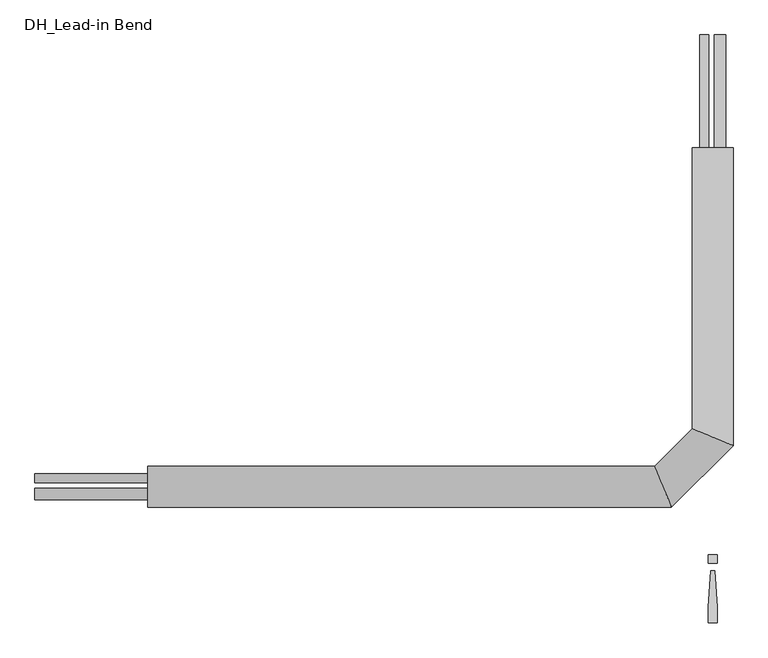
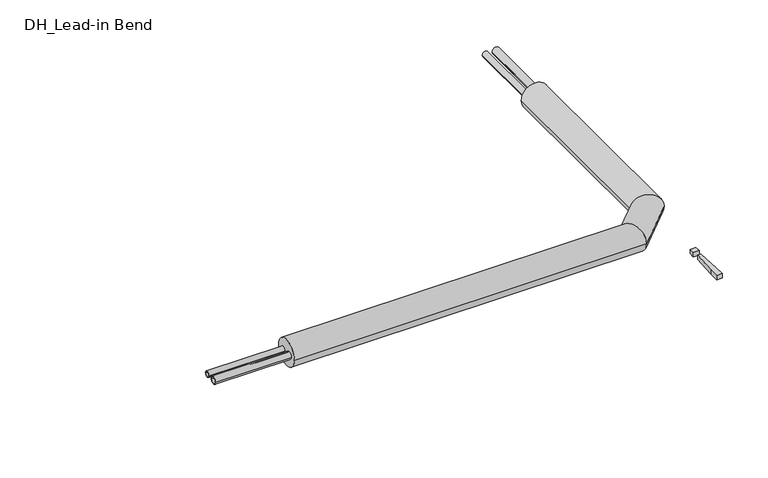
"""IFC4 building model written with IfcOpenShell, lengths in millimetres: pipe fitting geometry, DH_Lead-in Bend : INSULPEX DUO 7.4 DW Vertical."""

from ifc_helpers import new_model, si_unit, point, frame, frame_2d, origin, origin_with_axes, place, context, project, spatial, polyline, circle_curve, ellipse_curve, trimmed, segment, composite_curve, outline, extrude, source, transform, mapped, element, save
from ifc_brep_helpers import plane_surface, cylinder_surface, advanced_brep


def dh_lead_in_bend_9c1f3cdf(model_context):
    return source(origin(), model_context, "Body", "SolidModel", [
        extrude(outline(composite_curve([segment(trimmed(circle_curve(frame_2d((-16.0, 0.0)), 12.5), [point((-3.5, 0.0))], [point((-28.5, 0.0))], False, "CARTESIAN"), True, "CONTINUOUS"), segment(trimmed(circle_curve(frame_2d((-16.0, 0.0)), 12.5), [point((-28.5, 0.0))], [point((-3.5, 0.0))], False, "CARTESIAN"), True, "CONTINUOUS")], self_intersect=False), holes=[composite_curve([segment(trimmed(circle_curve(frame_2d((-16.0, 0.0)), 9.0), [point((-7.0, 0.0))], [point((-25.0, 0.0))], True, "CARTESIAN"), True, "CONTINUOUS"), segment(trimmed(circle_curve(frame_2d((-16.0, 0.0)), 9.0), [point((-25.0, 0.0))], [point((-7.0, 0.0))], True, "CARTESIAN"), True, "CONTINUOUS")], self_intersect=False)]), frame((-1500.0, 0.0, 0.0), z_axis=(1.0, 0.0, 0.0), x_axis=(0.0, 1.0, 0.0)), (0.0, 0.0, 1.0), 250.0),
        advanced_brep(
        [(-1250.0, -45.0, 0.0), (-1250.0, 45.0, 0.0), (-91.3603897, -45.0, 0.0), (-128.6396103, 45.0, 0.0), (45.0, 750.0, 0.0), (-45.0, 750.0, 0.0), (-45.0, 128.6396103, 0.0), (45.0, 91.3603897, 0.0)],
        [
            (0, 1, circle_curve(frame((-1250.0, 0.0, 0.0), z_axis=(-1.0, 0.0, 0.0), x_axis=(0.0, 1.0, 0.0)), 45.0)),
            (1, 0, circle_curve(frame((-1250.0, 0.0, 0.0), z_axis=(-1.0, 0.0, 0.0), x_axis=(0.0, 1.0, 0.0)), 45.0)),
            (0, 2),
            (2, 3, ellipse_curve(frame((-110.0, 0.0, 0.0), z_axis=(-0.9238795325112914, -0.3826834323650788, 0.0), x_axis=(-0.38268343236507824, 0.9238795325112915, 0.0)), 48.707649, 45.0)),
            (3, 1),
            (3, 2, ellipse_curve(frame((-110.0, 0.0, 0.0), z_axis=(-0.9238795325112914, -0.3826834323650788, 0.0), x_axis=(-0.38268343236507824, 0.9238795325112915, 0.0)), 48.707649, 45.0)),
            (4, 5, circle_curve(frame((0.0, 750.0, 0.0), z_axis=(0.0, 1.0, 0.0), x_axis=(-1.0, 0.0, 0.0)), 45.0)),
            (5, 4, circle_curve(frame((0.0, 750.0, 0.0), z_axis=(0.0, 1.0, 0.0), x_axis=(-1.0, 0.0, 0.0)), 45.0)),
            (6, 7, ellipse_curve(frame((0.0, 110.0, 0.0), z_axis=(0.38268343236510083, 0.9238795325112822, 0.0), x_axis=(0.9238795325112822, -0.3826834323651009, 0.0)), 48.707649, 45.0)),
            (7, 4),
            (5, 6),
            (7, 6, ellipse_curve(frame((0.0, 110.0, 0.0), z_axis=(0.38268343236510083, 0.9238795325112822, 0.0), x_axis=(0.9238795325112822, -0.3826834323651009, 0.0)), 48.707649, 45.0)),
            (2, 7),
            (6, 3),
        ],
        [
            plane_surface(frame((-1250.0, 0.0, 0.0), z_axis=(-1.0, 0.0, 0.0), x_axis=(0.0, 0.0, 1.0))),
            cylinder_surface(frame((-1250.0, 0.0, 0.0), z_axis=(-1.0, 0.0, 0.0), x_axis=(0.0, 1.0, 0.0)), 45.0),
            plane_surface(frame((0.0, 750.0, 0.0), z_axis=(0.0, 1.0, 0.0), x_axis=(0.0, 0.0, 1.0))),
            cylinder_surface(frame((0.0, 110.0, 0.0), z_axis=(0.0, -1.0, 0.0), x_axis=(-1.0, 0.0, 0.0)), 45.0),
            cylinder_surface(frame((-110.0, 0.0, 0.0), z_axis=(-0.7071067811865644, -0.7071067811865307, 0.0), x_axis=(-0.7071067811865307, 0.7071067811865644, 0.0)), 45.0),
        ],
        [
            (0, [[1, 2]]),
            (1, [[-1, 3, 4, 5]]),
            (1, [[-2, -5, 6, -3]]),
            (2, [[7, 8]]),
            (3, [[9, 10, -8, 11]]),
            (3, [[12, -11, -7, -10]]),
            (4, [[-4, 13, -9, 14]]),
            (4, [[-6, -14, -12, -13]]),
        ],
    ),
        extrude(outline(composite_curve([segment(trimmed(circle_curve(frame_2d((0.0, -18.5)), 10.0), [point((0.0, -8.5))], [point((0.0, -28.5))], False, "CARTESIAN"), True, "CONTINUOUS"), segment(trimmed(circle_curve(frame_2d((0.0, -18.5)), 10.0), [point((0.0, -28.5))], [point((0.0, -8.5))], False, "CARTESIAN"), True, "CONTINUOUS")], self_intersect=False), holes=[composite_curve([segment(trimmed(circle_curve(frame_2d((0.0, -18.5)), 7.2), [point((0.0, -11.3))], [point((0.0, -25.7))], True, "CARTESIAN"), True, "CONTINUOUS"), segment(trimmed(circle_curve(frame_2d((0.0, -18.5)), 7.2), [point((0.0, -25.7))], [point((0.0, -11.3))], True, "CARTESIAN"), True, "CONTINUOUS")], self_intersect=False)]), frame((0.0, 750.0, 0.0), z_axis=(0.0, 1.0, 0.0), x_axis=(0.0, 0.0, 1.0)), (0.0, 0.0, 1.0), 250.0),
        extrude(outline(composite_curve([segment(trimmed(circle_curve(frame_2d((18.5, 0.0)), 10.0), [point((8.5, 0.0))], [point((28.5, 0.0))], False, "CARTESIAN"), True, "CONTINUOUS"), segment(trimmed(circle_curve(frame_2d((18.5, 0.0)), 10.0), [point((28.5, 0.0))], [point((8.5, 0.0))], False, "CARTESIAN"), True, "CONTINUOUS")], self_intersect=False), holes=[composite_curve([segment(trimmed(circle_curve(frame_2d((18.5, 0.0)), 7.2), [point((11.3, 0.0))], [point((25.7, 0.0))], True, "CARTESIAN"), True, "CONTINUOUS"), segment(trimmed(circle_curve(frame_2d((18.5, 0.0)), 7.2), [point((25.7, 0.0))], [point((11.3, 0.0))], True, "CARTESIAN"), True, "CONTINUOUS")], self_intersect=False)]), frame((-1500.0, 0.0, 0.0), z_axis=(1.0, 0.0, 0.0), x_axis=(0.0, 1.0, 0.0)), (0.0, 0.0, 1.0), 250.0),
        extrude(outline(composite_curve([segment(trimmed(circle_curve(frame_2d((0.0, 16.0)), 12.5), [point((0.0, 3.5))], [point((0.0, 28.5))], False, "CARTESIAN"), True, "CONTINUOUS"), segment(trimmed(circle_curve(frame_2d((0.0, 16.0)), 12.5), [point((0.0, 28.5))], [point((0.0, 3.5))], False, "CARTESIAN"), True, "CONTINUOUS")], self_intersect=False), holes=[composite_curve([segment(trimmed(circle_curve(frame_2d((0.0, 16.0)), 9.0), [point((0.0, 7.0))], [point((0.0, 25.0))], True, "CARTESIAN"), True, "CONTINUOUS"), segment(trimmed(circle_curve(frame_2d((0.0, 16.0)), 9.0), [point((0.0, 25.0))], [point((0.0, 7.0))], True, "CARTESIAN"), True, "CONTINUOUS")], self_intersect=False)]), frame((0.0, 750.0, 0.0), z_axis=(0.0, 1.0, 0.0), x_axis=(0.0, 0.0, 1.0)), (0.0, 0.0, 1.0), 250.0),
        extrude(outline(polyline([(4.7088895, -185.3166715), (9.4177791, -266.6553807), (9.4177791, -300.6844652), (-9.4177791, -300.6844652), (-9.4177791, -266.6553807), (-4.7088895, -185.3166715), (4.7088895, -185.3166715)])), origin_with_axes(), (0.0, 0.0, 1.0), 15.0),
        extrude(outline(polyline([(9.4177791, -150.0), (9.4177791, -168.8355582), (-9.4177791, -168.8355582), (-9.4177791, -150.0), (9.4177791, -150.0)])), origin_with_axes(), (0.0, 0.0, 1.0), 15.0),
    ])


if __name__ == "__main__":
    model = new_model("IFC4")
    model_context = context("Model", 3, world=origin())
    ifc_project = project(units=[si_unit("LENGTHUNIT", "METRE", prefix="MILLI")], contexts=[model_context])
    site = spatial("IfcSite", under=ifc_project)
    building = spatial("IfcBuilding", under=site)
    placement = place(None, origin())
    dh_lead_in_bend_shape = dh_lead_in_bend_9c1f3cdf(model_context)
    element("IfcPipeFitting", 1, ObjectType="DH_Lead-in Bend : INSULPEX DUO 7.4 DW Vertical", at=placement, inside=building, context=model_context, shape_type="MappedRepresentation", body=[
        mapped(dh_lead_in_bend_shape, transform((0.0, 0.0, 0.0), x_axis=(1.0, 0.0, 0.0), y_axis=(0.0, 1.0, 0.0), z_axis=(0.0, 0.0, 1.0))),
    ])
    save(model, "model.ifc")
